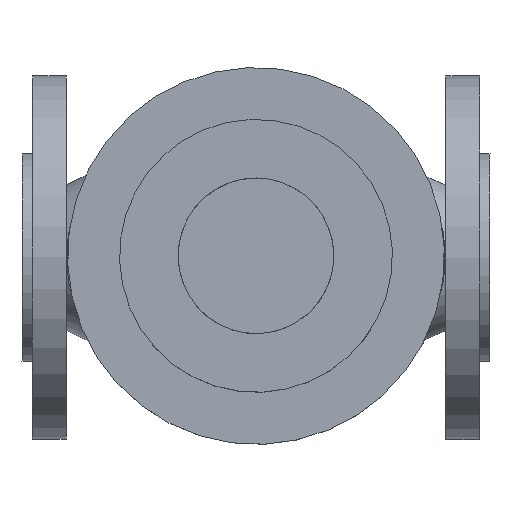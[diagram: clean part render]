
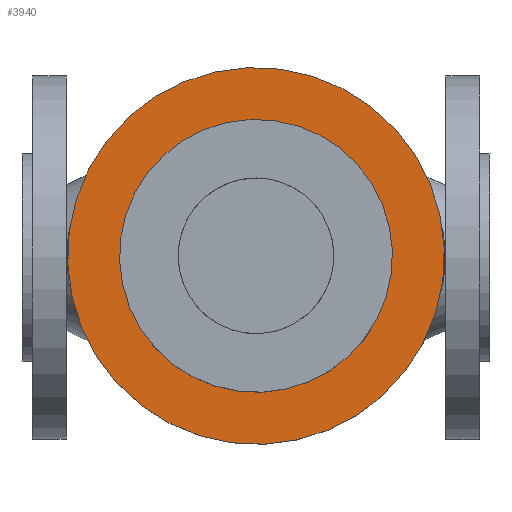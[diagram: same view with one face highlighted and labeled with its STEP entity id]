
A CAD part, top view. The second image highlights one B-rep face of the part: STEP entity #3940.
In plain terms, the highlighted planar face has unit normal (0, 0, 1).
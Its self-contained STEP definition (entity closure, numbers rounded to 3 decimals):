
#437 = AXIS2_PLACEMENT_3D ( 'NONE', #3608, #10651, #6498 ) ;
#468 = CIRCLE ( 'NONE', #3158, 72.5 ) ;
#784 = CIRCLE ( 'NONE', #13334, 52.5 ) ;
#785 = DIRECTION ( 'NONE',  ( 0., 0., 1. ) ) ;
#1222 = DIRECTION ( 'NONE',  ( 1., 0., 0. ) ) ;
#2816 = EDGE_CURVE ( 'NONE', #7475, #16493, #468, .T. ) ;
#3158 = AXIS2_PLACEMENT_3D ( 'NONE', #12065, #17692, #6233 ) ;
#3585 = PLANE ( 'NONE',  #15425 ) ;
#3608 = CARTESIAN_POINT ( 'NONE',  ( -52.115, 0., 304.1 ) ) ;
#3940 = ADVANCED_FACE ( 'NONE', ( #9211, #14746 ), #3585, .T. ) ;
#4589 = ORIENTED_EDGE ( 'NONE', *, *, #5990, .T. ) ;
#5168 = CARTESIAN_POINT ( 'NONE',  ( -24.344, -66.97, 304.1 ) ) ;
#5412 = EDGE_LOOP ( 'NONE', ( #4589, #17437 ) ) ;
#5990 = EDGE_CURVE ( 'NONE', #16493, #7475, #18090, .T. ) ;
#6233 = DIRECTION ( 'NONE',  ( -0.383, 0.924, 0. ) ) ;
#6498 = DIRECTION ( 'NONE',  ( -0.383, 0.924, 0. ) ) ;
#6921 = DIRECTION ( 'NONE',  ( 1., 0., 0. ) ) ;
#7475 = VERTEX_POINT ( 'NONE', #5168 ) ;
#8439 = CARTESIAN_POINT ( 'NONE',  ( -72.225, 48.496, 304.1 ) ) ;
#9211 = FACE_OUTER_BOUND ( 'NONE', #5412, .T. ) ;
#9626 = CARTESIAN_POINT ( 'NONE',  ( -79.886, 66.97, 304.1 ) ) ;
#9667 = CARTESIAN_POINT ( 'NONE',  ( -52.115, 0., 304.1 ) ) ;
#10651 = DIRECTION ( 'NONE',  ( 0., 0., 1. ) ) ;
#11593 = DIRECTION ( 'NONE',  ( 1., 0., 0. ) ) ;
#11627 = VERTEX_POINT ( 'NONE', #8439 ) ;
#11904 = CARTESIAN_POINT ( 'NONE',  ( -32.005, -48.496, 304.1 ) ) ;
#12065 = CARTESIAN_POINT ( 'NONE',  ( -52.115, 0., 304.1 ) ) ;
#12281 = DIRECTION ( 'NONE',  ( 0., 0., 1. ) ) ;
#13334 = AXIS2_PLACEMENT_3D ( 'NONE', #9667, #15388, #6921 ) ;
#13608 = CARTESIAN_POINT ( 'NONE',  ( -72.838, 49.974, 304.1 ) ) ;
#13688 = EDGE_LOOP ( 'NONE', ( #17916, #16723 ) ) ;
#13872 = CARTESIAN_POINT ( 'NONE',  ( -52.115, 0., 304.1 ) ) ;
#14126 = EDGE_CURVE ( 'NONE', #11627, #16206, #784, .T. ) ;
#14746 = FACE_BOUND ( 'NONE', #13688, .T. ) ;
#15186 = AXIS2_PLACEMENT_3D ( 'NONE', #13872, #12281, #1222 ) ;
#15388 = DIRECTION ( 'NONE',  ( 0., 0., 1. ) ) ;
#15425 = AXIS2_PLACEMENT_3D ( 'NONE', #13608, #785, #11593 ) ;
#15575 = EDGE_CURVE ( 'NONE', #16206, #11627, #18159, .T. ) ;
#16206 = VERTEX_POINT ( 'NONE', #11904 ) ;
#16493 = VERTEX_POINT ( 'NONE', #9626 ) ;
#16723 = ORIENTED_EDGE ( 'NONE', *, *, #15575, .F. ) ;
#17437 = ORIENTED_EDGE ( 'NONE', *, *, #2816, .T. ) ;
#17692 = DIRECTION ( 'NONE',  ( 0., 0., 1. ) ) ;
#17916 = ORIENTED_EDGE ( 'NONE', *, *, #14126, .F. ) ;
#18090 = CIRCLE ( 'NONE', #437, 72.5 ) ;
#18159 = CIRCLE ( 'NONE', #15186, 52.5 ) ;
